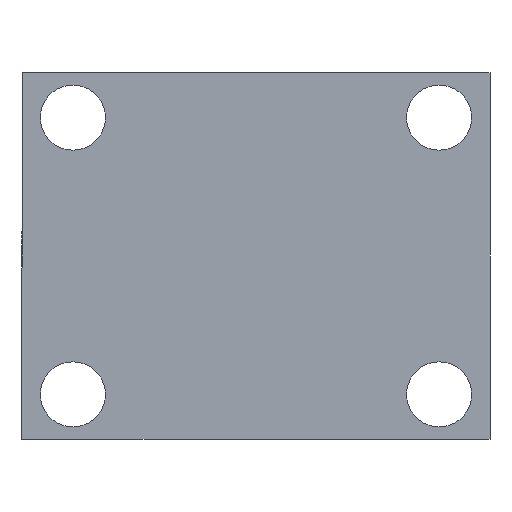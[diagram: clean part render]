
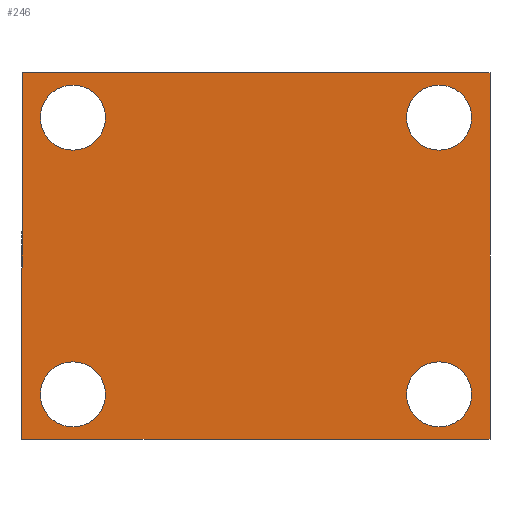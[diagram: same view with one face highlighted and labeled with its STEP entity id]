
A CAD part, front view. The second image highlights one B-rep face of the part: STEP entity #246.
In plain terms, the highlighted planar face has unit normal (0, -1, 0).
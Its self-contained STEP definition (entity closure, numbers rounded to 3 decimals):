
#9 = CARTESIAN_POINT ( 'NONE',  ( -57.5, 0., -45. ) ) ;
#27 = DIRECTION ( 'NONE',  ( 0., 0., 1. ) ) ;
#48 = CIRCLE ( 'NONE', #152, 8. ) ;
#59 = CARTESIAN_POINT ( 'NONE',  ( -45., 0., 42. ) ) ;
#78 = CIRCLE ( 'NONE', #315, 8. ) ;
#84 = ORIENTED_EDGE ( 'NONE', *, *, #858, .F. ) ;
#86 = DIRECTION ( 'NONE',  ( 0., 0., 1. ) ) ;
#91 = VERTEX_POINT ( 'NONE', #1214 ) ;
#112 = LINE ( 'NONE', #1041, #870 ) ;
#119 = EDGE_CURVE ( 'NONE', #1211, #571, #78, .T. ) ;
#139 = EDGE_CURVE ( 'NONE', #991, #1036, #171, .T. ) ;
#152 = AXIS2_PLACEMENT_3D ( 'NONE', #277, #168, #361 ) ;
#153 = CIRCLE ( 'NONE', #933, 8. ) ;
#159 = LINE ( 'NONE', #216, #819 ) ;
#160 = EDGE_LOOP ( 'NONE', ( #594, #737 ) ) ;
#168 = DIRECTION ( 'NONE',  ( 0., 1., 0. ) ) ;
#171 = LINE ( 'NONE', #359, #1098 ) ;
#203 = FACE_BOUND ( 'NONE', #160, .T. ) ;
#205 = CARTESIAN_POINT ( 'NONE',  ( 45., 0., 42. ) ) ;
#210 = CARTESIAN_POINT ( 'NONE',  ( -45., 0., -34. ) ) ;
#211 = CIRCLE ( 'NONE', #500, 8. ) ;
#216 = CARTESIAN_POINT ( 'NONE',  ( -57.5, 0., 45. ) ) ;
#238 = DIRECTION ( 'NONE',  ( 0., 0., 1. ) ) ;
#246 = ADVANCED_FACE ( 'NONE', ( #203, #928, #678, #552, #1127 ), #1043, .F. ) ;
#277 = CARTESIAN_POINT ( 'NONE',  ( -45., 0., -34. ) ) ;
#301 = VERTEX_POINT ( 'NONE', #478 ) ;
#315 = AXIS2_PLACEMENT_3D ( 'NONE', #834, #1034, #86 ) ;
#328 = VECTOR ( 'NONE', #747, 1000. ) ;
#345 = ORIENTED_EDGE ( 'NONE', *, *, #906, .T. ) ;
#351 = AXIS2_PLACEMENT_3D ( 'NONE', #565, #467, #675 ) ;
#359 = CARTESIAN_POINT ( 'NONE',  ( -57.5, 0., -45. ) ) ;
#361 = DIRECTION ( 'NONE',  ( 0., 0., 1. ) ) ;
#362 = EDGE_CURVE ( 'NONE', #910, #828, #912, .T. ) ;
#382 = CIRCLE ( 'NONE', #1021, 8. ) ;
#388 = ORIENTED_EDGE ( 'NONE', *, *, #362, .T. ) ;
#390 = EDGE_LOOP ( 'NONE', ( #84, #1106, #401, #470 ) ) ;
#401 = ORIENTED_EDGE ( 'NONE', *, *, #139, .F. ) ;
#408 = EDGE_LOOP ( 'NONE', ( #388, #455 ) ) ;
#422 = ORIENTED_EDGE ( 'NONE', *, *, #119, .T. ) ;
#452 = CARTESIAN_POINT ( 'NONE',  ( 45., 0., 26. ) ) ;
#455 = ORIENTED_EDGE ( 'NONE', *, *, #618, .T. ) ;
#465 = DIRECTION ( 'NONE',  ( 0., 0., 1. ) ) ;
#467 = DIRECTION ( 'NONE',  ( 0., 1., 0. ) ) ;
#470 = ORIENTED_EDGE ( 'NONE', *, *, #1172, .F. ) ;
#471 = DIRECTION ( 'NONE',  ( 0., 1., 0. ) ) ;
#478 = CARTESIAN_POINT ( 'NONE',  ( 45., 0., -42. ) ) ;
#500 = AXIS2_PLACEMENT_3D ( 'NONE', #210, #586, #777 ) ;
#509 = CARTESIAN_POINT ( 'NONE',  ( -45., 0., -26. ) ) ;
#518 = DIRECTION ( 'NONE',  ( 0., 1., 0. ) ) ;
#543 = AXIS2_PLACEMENT_3D ( 'NONE', #575, #875, #27 ) ;
#552 = FACE_BOUND ( 'NONE', #935, .T. ) ;
#557 = DIRECTION ( 'NONE',  ( 0., 0., -1. ) ) ;
#561 = DIRECTION ( 'NONE',  ( 0., 0., 1. ) ) ;
#565 = CARTESIAN_POINT ( 'NONE',  ( 45., 0., 34. ) ) ;
#571 = VERTEX_POINT ( 'NONE', #59 ) ;
#575 = CARTESIAN_POINT ( 'NONE',  ( 45., 0., 34. ) ) ;
#581 = CARTESIAN_POINT ( 'NONE',  ( -57.5, 0., -45. ) ) ;
#586 = DIRECTION ( 'NONE',  ( 0., 1., 0. ) ) ;
#594 = ORIENTED_EDGE ( 'NONE', *, *, #1048, .T. ) ;
#596 = EDGE_CURVE ( 'NONE', #301, #1232, #693, .T. ) ;
#613 = CARTESIAN_POINT ( 'NONE',  ( -57.5, 0., 45. ) ) ;
#618 = EDGE_CURVE ( 'NONE', #828, #910, #1081, .T. ) ;
#626 = VERTEX_POINT ( 'NONE', #948 ) ;
#631 = ORIENTED_EDGE ( 'NONE', *, *, #795, .T. ) ;
#649 = CARTESIAN_POINT ( 'NONE',  ( -45., 0., 26. ) ) ;
#669 = LINE ( 'NONE', #9, #328 ) ;
#675 = DIRECTION ( 'NONE',  ( 0., 0., 1. ) ) ;
#677 = AXIS2_PLACEMENT_3D ( 'NONE', #845, #471, #465 ) ;
#678 = FACE_BOUND ( 'NONE', #1234, .T. ) ;
#693 = CIRCLE ( 'NONE', #736, 8. ) ;
#712 = DIRECTION ( 'NONE',  ( 0., 1., 0. ) ) ;
#736 = AXIS2_PLACEMENT_3D ( 'NONE', #927, #1140, #752 ) ;
#737 = ORIENTED_EDGE ( 'NONE', *, *, #596, .T. ) ;
#747 = DIRECTION ( 'NONE',  ( -1., 0., 0. ) ) ;
#752 = DIRECTION ( 'NONE',  ( 0., 0., 1. ) ) ;
#777 = DIRECTION ( 'NONE',  ( 0., 0., 1. ) ) ;
#789 = EDGE_CURVE ( 'NONE', #1036, #91, #159, .T. ) ;
#795 = EDGE_CURVE ( 'NONE', #896, #1094, #48, .T. ) ;
#797 = CARTESIAN_POINT ( 'NONE',  ( 45., 0., -34. ) ) ;
#819 = VECTOR ( 'NONE', #1167, 1000. ) ;
#828 = VERTEX_POINT ( 'NONE', #452 ) ;
#834 = CARTESIAN_POINT ( 'NONE',  ( -45., 0., 34. ) ) ;
#845 = CARTESIAN_POINT ( 'NONE',  ( 0., 0., 0. ) ) ;
#858 = EDGE_CURVE ( 'NONE', #91, #626, #112, .T. ) ;
#870 = VECTOR ( 'NONE', #557, 1000. ) ;
#875 = DIRECTION ( 'NONE',  ( 0., 1., 0. ) ) ;
#891 = DIRECTION ( 'NONE',  ( 0., 0., 1. ) ) ;
#896 = VERTEX_POINT ( 'NONE', #930 ) ;
#906 = EDGE_CURVE ( 'NONE', #1094, #896, #211, .T. ) ;
#910 = VERTEX_POINT ( 'NONE', #205 ) ;
#912 = CIRCLE ( 'NONE', #543, 8. ) ;
#927 = CARTESIAN_POINT ( 'NONE',  ( 45., 0., -34. ) ) ;
#928 = FACE_BOUND ( 'NONE', #408, .T. ) ;
#930 = CARTESIAN_POINT ( 'NONE',  ( -45., 0., -42. ) ) ;
#933 = AXIS2_PLACEMENT_3D ( 'NONE', #797, #518, #238 ) ;
#935 = EDGE_LOOP ( 'NONE', ( #345, #631 ) ) ;
#948 = CARTESIAN_POINT ( 'NONE',  ( 57.5, 0., -45. ) ) ;
#991 = VERTEX_POINT ( 'NONE', #581 ) ;
#1021 = AXIS2_PLACEMENT_3D ( 'NONE', #1086, #712, #891 ) ;
#1032 = EDGE_CURVE ( 'NONE', #571, #1211, #382, .T. ) ;
#1034 = DIRECTION ( 'NONE',  ( 0., 1., 0. ) ) ;
#1036 = VERTEX_POINT ( 'NONE', #613 ) ;
#1041 = CARTESIAN_POINT ( 'NONE',  ( 57.5, 0., -45. ) ) ;
#1043 = PLANE ( 'NONE',  #677 ) ;
#1048 = EDGE_CURVE ( 'NONE', #1232, #301, #153, .T. ) ;
#1081 = CIRCLE ( 'NONE', #351, 8. ) ;
#1086 = CARTESIAN_POINT ( 'NONE',  ( -45., 0., 34. ) ) ;
#1092 = CARTESIAN_POINT ( 'NONE',  ( 45., 0., -26. ) ) ;
#1094 = VERTEX_POINT ( 'NONE', #509 ) ;
#1098 = VECTOR ( 'NONE', #561, 1000. ) ;
#1106 = ORIENTED_EDGE ( 'NONE', *, *, #789, .F. ) ;
#1127 = FACE_OUTER_BOUND ( 'NONE', #390, .T. ) ;
#1140 = DIRECTION ( 'NONE',  ( 0., 1., 0. ) ) ;
#1151 = ORIENTED_EDGE ( 'NONE', *, *, #1032, .T. ) ;
#1167 = DIRECTION ( 'NONE',  ( 1., 0., 0. ) ) ;
#1172 = EDGE_CURVE ( 'NONE', #626, #991, #669, .T. ) ;
#1211 = VERTEX_POINT ( 'NONE', #649 ) ;
#1214 = CARTESIAN_POINT ( 'NONE',  ( 57.5, 0., 45. ) ) ;
#1232 = VERTEX_POINT ( 'NONE', #1092 ) ;
#1234 = EDGE_LOOP ( 'NONE', ( #1151, #422 ) ) ;
